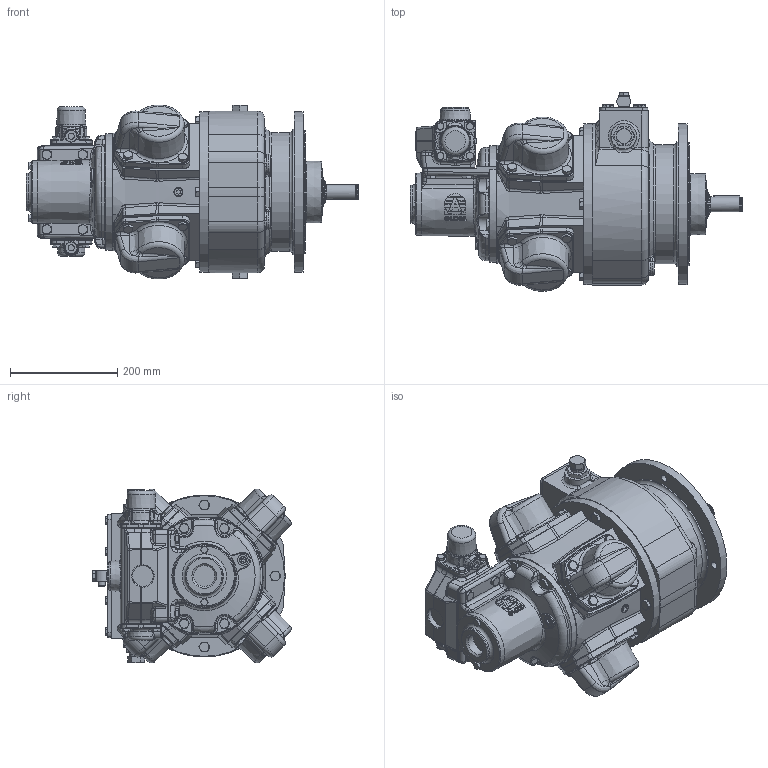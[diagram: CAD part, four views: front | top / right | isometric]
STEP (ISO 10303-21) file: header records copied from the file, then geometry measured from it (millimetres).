
FILE_DESCRIPTION (( 'STEP AP214' ), '1' );
FILE_NAME ('RM410+RCV410+RM410 Brake Defeature + Logo.STEP', '2023-05-17T13:55:41', ( '' ), ( '' ), 'SwSTEP 2.0', 'SolidWorks 2022', '' );
FILE_SCHEMA (( 'AUTOMOTIVE_DESIGN' ));
Length unit declared in the file: millimetre
Products named in the file (1): RM410+RCV410+RM410 Brake Defeature + Logo
Bounding box: 620.23 x 370.67 x 324.89 mm (x, y, z)
Volume: 28501971.1 mm3; surface area: 842566 mm2
Topology: 1 solids, 1 shells, 2987 faces, 7311 edges, 4445 vertices
Faces by surface type: plane 1291, bspline 601, cone 508, cylinder 463, torus 119, sphere 5
Full cylindrical faces by diameter (mm): 3.1 x2, 3.15 x1, 6.5 x1, 8 x1, 11.445 x4, 11.7 x1, 12.453 x2, 13 x16, 13.157 x2, 14 x4, 17 x24, 18 x4, 20 x1, 20.57 x2, 21.5 x3, 23.7 x2, 26.35 x2, 28 x1, 38 x1, 39 x1, 39.5 x1, 39.6 x1, 48 x2, 54 x1, 56.1 x1, 77.7 x1, 90 x1, 218 x1, 222 x1, 230 x1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
Entity records: 172328 total; most frequent: CARTESIAN_POINT 76481, ORIENTED_EDGE 14206, DIRECTION 11303, EDGE_CURVE 7103, VERTEX_POINT 4390, AXIS2_PLACEMENT_3D 4369, EDGE_LOOP 3267, FACE_OUTER_BOUND 3090
